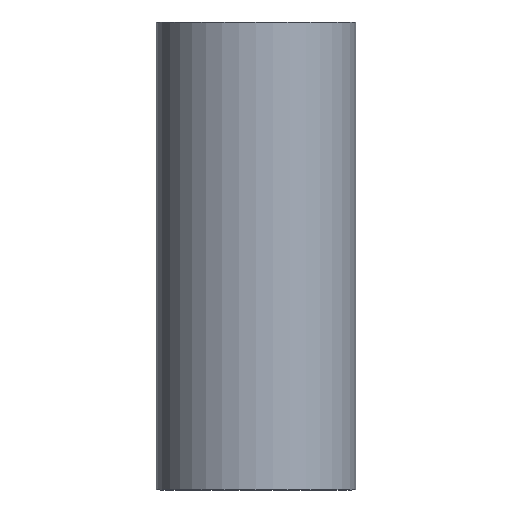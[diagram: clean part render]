
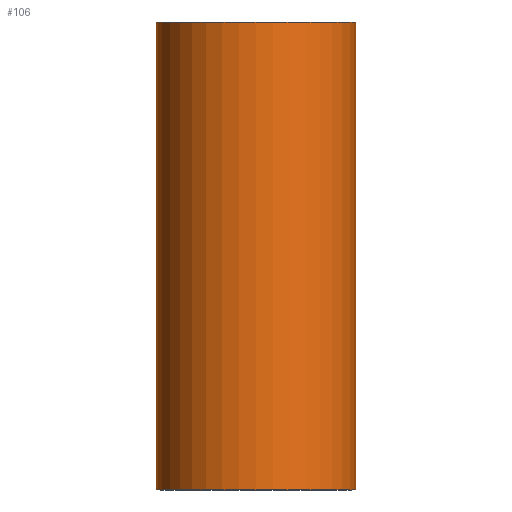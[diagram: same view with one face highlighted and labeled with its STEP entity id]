
A CAD part, left-side view. The second image highlights one B-rep face of the part: STEP entity #106.
In plain terms, the highlighted cylindrical face has radius 80 mm (diameter 160 mm), a full revolution.
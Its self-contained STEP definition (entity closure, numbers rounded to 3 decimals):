
#23=FACE_BOUND('',#47,.T.);
#24=FACE_BOUND('',#48,.T.);
#27=B_SPLINE_CURVE_WITH_KNOTS('',3,(#269,#270,#271,#272,#273,#274,#275,
#276,#277,#278,#279,#280,#281,#282,#283,#284,#285,#286,#287,#288,#289,#290,
#291,#292,#293,#294,#295,#296,#297,#298,#299,#300,#301,#302,#303,#304,#305,
#306,#307,#308,#309,#310,#311,#312,#313,#314,#315,#316,#317,#318,#319,#320,
#321,#322,#323,#324,#325,#326,#327,#328,#329,#330,#331,#332,#333,#334,#335,
#336,#337,#338,#339,#340,#341,#342,#343,#344,#345,#346,#347,#348,#349,#350),
 .UNSPECIFIED.,.T.,.F.,(4,2,2,2,2,2,2,2,2,2,2,2,2,2,2,2,2,2,2,2,2,2,2,2,
2,2,2,2,2,2,2,2,2,2,2,2,2,2,2,2,4),(0.,1.961,3.922,
5.884,7.845,9.84,11.835,12.383,
12.931,13.479,14.027,14.575,15.123,
15.671,16.218,18.214,20.209,22.17,
24.131,26.092,28.054,29.362,30.016,
30.67,31.324,31.978,33.286,34.485,
35.684,36.883,38.081,39.28,40.479,
41.677,42.876,44.184,44.838,45.493,
46.147,46.801,48.109),.UNSPECIFIED.);
#33=FACE_OUTER_BOUND('',#46,.T.);
#46=EDGE_LOOP('',(#84));
#47=EDGE_LOOP('',(#85));
#48=EDGE_LOOP('',(#86));
#55=CIRCLE('',#137,80.);
#56=CIRCLE('',#139,80.);
#62=VERTEX_POINT('',#268);
#63=VERTEX_POINT('',#353);
#64=VERTEX_POINT('',#356);
#70=EDGE_CURVE('',#62,#62,#27,.T.);
#71=EDGE_CURVE('',#63,#63,#55,.T.);
#72=EDGE_CURVE('',#64,#64,#56,.T.);
#84=ORIENTED_EDGE('',*,*,#71,.T.);
#85=ORIENTED_EDGE('',*,*,#70,.T.);
#86=ORIENTED_EDGE('',*,*,#72,.F.);
#92=CYLINDRICAL_SURFACE('',#138,80.);
#106=ADVANCED_FACE('',(#33,#23,#24),#92,.T.);
#137=AXIS2_PLACEMENT_3D('',#354,#161,#162);
#138=AXIS2_PLACEMENT_3D('',#355,#163,#164);
#139=AXIS2_PLACEMENT_3D('',#357,#165,#166);
#161=DIRECTION('center_axis',(0.,0.,-1.));
#162=DIRECTION('ref_axis',(1.,0.,0.));
#163=DIRECTION('center_axis',(0.,0.,-1.));
#164=DIRECTION('ref_axis',(-1.,0.,0.));
#165=DIRECTION('center_axis',(0.,0.,-1.));
#166=DIRECTION('ref_axis',(1.,0.,0.));
#268=CARTESIAN_POINT('',(49.937,-62.5,174.937));
#269=CARTESIAN_POINT('Ctrl Pts',(49.937,-62.5,174.937));
#270=CARTESIAN_POINT('Ctrl Pts',(49.937,-62.5,181.475));
#271=CARTESIAN_POINT('Ctrl Pts',(50.574,-62.,188.176));
#272=CARTESIAN_POINT('Ctrl Pts',(52.611,-60.282,201.675));
#273=CARTESIAN_POINT('Ctrl Pts',(54.011,-59.057,208.471));
#274=CARTESIAN_POINT('Ctrl Pts',(57.192,-55.982,221.884));
#275=CARTESIAN_POINT('Ctrl Pts',(58.974,-54.129,228.497));
#276=CARTESIAN_POINT('Ctrl Pts',(62.63,-49.854,241.215));
#277=CARTESIAN_POINT('Ctrl Pts',(64.505,-47.43,247.321));
#278=CARTESIAN_POINT('Ctrl Pts',(68.146,-42.034,258.79));
#279=CARTESIAN_POINT('Ctrl Pts',(70.175,-38.667,264.949));
#280=CARTESIAN_POINT('Ctrl Pts',(74.018,-30.675,276.328));
#281=CARTESIAN_POINT('Ctrl Pts',(75.829,-26.046,281.547));
#282=CARTESIAN_POINT('Ctrl Pts',(77.604,-19.486,286.614));
#283=CARTESIAN_POINT('Ctrl Pts',(77.98,-17.944,287.681));
#284=CARTESIAN_POINT('Ctrl Pts',(78.663,-14.661,289.619));
#285=CARTESIAN_POINT('Ctrl Pts',(78.971,-12.919,290.489));
#286=CARTESIAN_POINT('Ctrl Pts',(79.476,-9.317,291.916));
#287=CARTESIAN_POINT('Ctrl Pts',(79.674,-7.453,292.472));
#288=CARTESIAN_POINT('Ctrl Pts',(79.936,-3.708,293.209));
#289=CARTESIAN_POINT('Ctrl Pts',(80.,-1.826,293.388));
#290=CARTESIAN_POINT('Ctrl Pts',(80.,1.826,293.388));
#291=CARTESIAN_POINT('Ctrl Pts',(79.936,3.708,293.209));
#292=CARTESIAN_POINT('Ctrl Pts',(79.674,7.453,292.472));
#293=CARTESIAN_POINT('Ctrl Pts',(79.476,9.317,291.916));
#294=CARTESIAN_POINT('Ctrl Pts',(78.971,12.919,290.489));
#295=CARTESIAN_POINT('Ctrl Pts',(78.663,14.661,289.619));
#296=CARTESIAN_POINT('Ctrl Pts',(77.98,17.944,287.681));
#297=CARTESIAN_POINT('Ctrl Pts',(77.604,19.486,286.614));
#298=CARTESIAN_POINT('Ctrl Pts',(75.829,26.046,281.547));
#299=CARTESIAN_POINT('Ctrl Pts',(74.018,30.675,276.328));
#300=CARTESIAN_POINT('Ctrl Pts',(70.175,38.667,264.949));
#301=CARTESIAN_POINT('Ctrl Pts',(68.146,42.034,258.79));
#302=CARTESIAN_POINT('Ctrl Pts',(64.505,47.43,247.321));
#303=CARTESIAN_POINT('Ctrl Pts',(62.63,49.854,241.215));
#304=CARTESIAN_POINT('Ctrl Pts',(58.974,54.129,228.497));
#305=CARTESIAN_POINT('Ctrl Pts',(57.192,55.982,221.884));
#306=CARTESIAN_POINT('Ctrl Pts',(54.011,59.057,208.471));
#307=CARTESIAN_POINT('Ctrl Pts',(52.611,60.282,201.675));
#308=CARTESIAN_POINT('Ctrl Pts',(50.574,62.,188.176));
#309=CARTESIAN_POINT('Ctrl Pts',(49.937,62.5,181.475));
#310=CARTESIAN_POINT('Ctrl Pts',(49.937,62.5,170.577));
#311=CARTESIAN_POINT('Ctrl Pts',(50.232,62.271,166.039));
#312=CARTESIAN_POINT('Ctrl Pts',(51.322,61.37,159.387));
#313=CARTESIAN_POINT('Ctrl Pts',(51.792,60.977,157.194));
#314=CARTESIAN_POINT('Ctrl Pts',(52.948,59.976,152.925));
#315=CARTESIAN_POINT('Ctrl Pts',(53.633,59.369,150.849));
#316=CARTESIAN_POINT('Ctrl Pts',(55.188,57.926,146.866));
#317=CARTESIAN_POINT('Ctrl Pts',(56.06,57.088,144.952));
#318=CARTESIAN_POINT('Ctrl Pts',(57.939,55.18,141.32));
#319=CARTESIAN_POINT('Ctrl Pts',(58.945,54.11,139.601));
#320=CARTESIAN_POINT('Ctrl Pts',(62.059,50.582,134.765));
#321=CARTESIAN_POINT('Ctrl Pts',(64.258,47.795,131.972));
#322=CARTESIAN_POINT('Ctrl Pts',(68.19,41.97,127.452));
#323=CARTESIAN_POINT('Ctrl Pts',(70.059,38.814,125.529));
#324=CARTESIAN_POINT('Ctrl Pts',(73.454,31.926,122.238));
#325=CARTESIAN_POINT('Ctrl Pts',(74.979,28.194,120.868));
#326=CARTESIAN_POINT('Ctrl Pts',(77.464,20.396,118.701));
#327=CARTESIAN_POINT('Ctrl Pts',(78.427,16.324,117.902));
#328=CARTESIAN_POINT('Ctrl Pts',(79.695,8.124,116.857));
#329=CARTESIAN_POINT('Ctrl Pts',(80.,3.996,116.612));
#330=CARTESIAN_POINT('Ctrl Pts',(80.,-3.996,116.612));
#331=CARTESIAN_POINT('Ctrl Pts',(79.695,-8.124,116.857));
#332=CARTESIAN_POINT('Ctrl Pts',(78.427,-16.324,117.902));
#333=CARTESIAN_POINT('Ctrl Pts',(77.464,-20.396,118.701));
#334=CARTESIAN_POINT('Ctrl Pts',(74.979,-28.194,120.868));
#335=CARTESIAN_POINT('Ctrl Pts',(73.454,-31.926,122.238));
#336=CARTESIAN_POINT('Ctrl Pts',(70.059,-38.814,125.529));
#337=CARTESIAN_POINT('Ctrl Pts',(68.19,-41.97,127.452));
#338=CARTESIAN_POINT('Ctrl Pts',(64.258,-47.795,131.972));
#339=CARTESIAN_POINT('Ctrl Pts',(62.059,-50.582,134.765));
#340=CARTESIAN_POINT('Ctrl Pts',(58.945,-54.11,139.601));
#341=CARTESIAN_POINT('Ctrl Pts',(57.939,-55.18,141.32));
#342=CARTESIAN_POINT('Ctrl Pts',(56.06,-57.088,144.952));
#343=CARTESIAN_POINT('Ctrl Pts',(55.188,-57.926,146.866));
#344=CARTESIAN_POINT('Ctrl Pts',(53.633,-59.369,150.849));
#345=CARTESIAN_POINT('Ctrl Pts',(52.948,-59.976,152.925));
#346=CARTESIAN_POINT('Ctrl Pts',(51.792,-60.977,157.194));
#347=CARTESIAN_POINT('Ctrl Pts',(51.322,-61.37,159.387));
#348=CARTESIAN_POINT('Ctrl Pts',(50.232,-62.271,166.039));
#349=CARTESIAN_POINT('Ctrl Pts',(49.937,-62.5,170.577));
#350=CARTESIAN_POINT('Ctrl Pts',(49.937,-62.5,174.937));
#353=CARTESIAN_POINT('',(-80.,0.,375.));
#354=CARTESIAN_POINT('Origin',(0.,0.,375.));
#355=CARTESIAN_POINT('Origin',(0.,0.,187.5));
#356=CARTESIAN_POINT('',(-80.,0.,0.));
#357=CARTESIAN_POINT('Origin',(0.,0.,0.));
